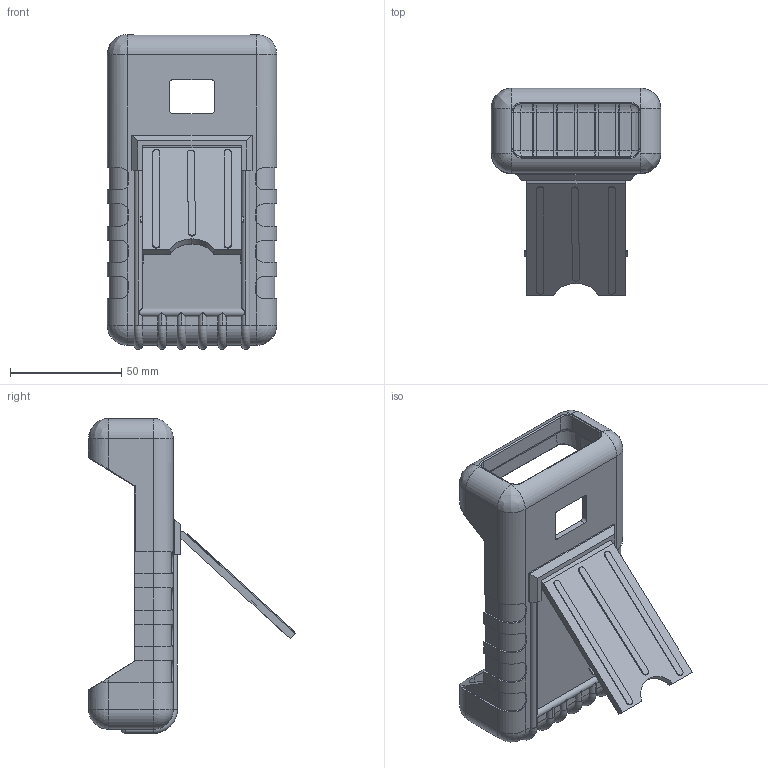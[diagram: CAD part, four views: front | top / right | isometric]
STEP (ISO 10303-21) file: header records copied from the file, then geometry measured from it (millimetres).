
FILE_DESCRIPTION (( 'STEP AP214' ), '1' );
FILE_NAME ('55 RBD Assy.STEP', '2020-06-23T18:22:07', ( 'Rudy' ), ( '' ), 'SwSTEP 2.0', 'SolidWorks 2014', '' );
FILE_SCHEMA (( 'AUTOMOTIVE_DESIGN' ));
Length unit declared in the file: inch
Products named in the file (3): 55 RBD Stand; 55 RBD; 55 RBD Assy
Assembly tree (2 placements, depth 2):
  55 RBD Assy
    55 RBD
    55 RBD Stand
Bounding box: 76.2 x 93.09 x 141.6 mm (x, y, z)
Volume: 80467.6 mm3; surface area: 49000 mm2
Topology: 2 solids, 2 shells, 399 faces, 1064 edges, 660 vertices
Faces by surface type: plane 150, cylinder 141, bspline 56, torus 48, sphere 4
Entity records: 22622 total; most frequent: CARTESIAN_POINT 13102, ORIENTED_EDGE 2112, DIRECTION 1824, EDGE_CURVE 1056, VERTEX_POINT 660, AXIS2_PLACEMENT_3D 654, LINE 516, VECTOR 516
